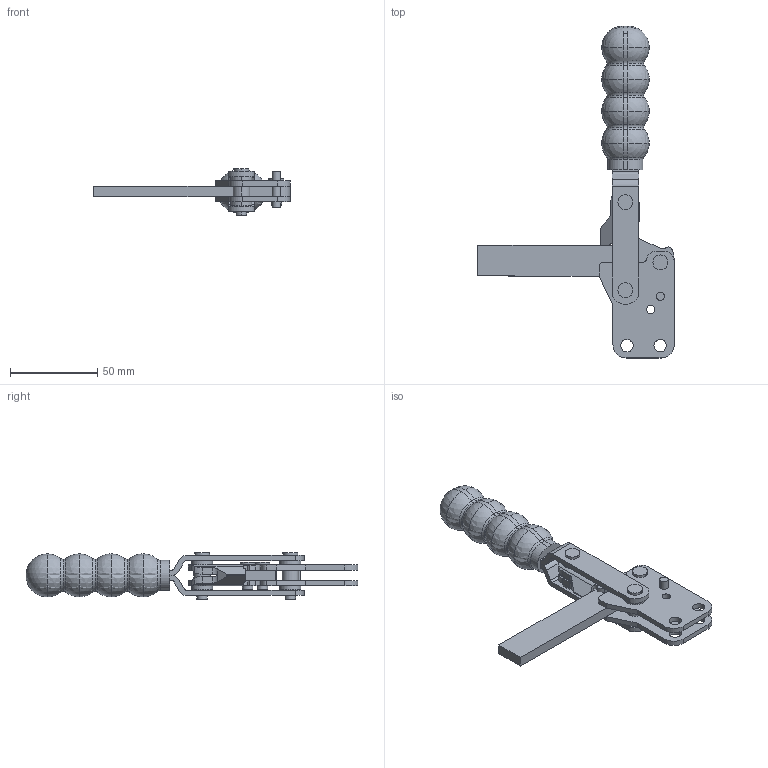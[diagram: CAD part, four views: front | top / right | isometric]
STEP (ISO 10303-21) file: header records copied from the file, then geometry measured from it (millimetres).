
FILE_DESCRIPTION( ( '' ), '1' );
FILE_NAME( '//partserver002.servicenet/client_exchange/iodir/jobs/output/wkb5782539_no2/STEP/v250_1a_2_14a.stp', '2006-11-29T10:30:40', ( '' ), ( '' ), ' ', ' ', ' ' );
FILE_SCHEMA( ( 'automotive_design' ) );
Length unit declared in the file: millimetre
Products named in the file (5): 1; 2; 3; 4; 5
Bounding box: 112.52 x 189.97 x 26.7 mm (x, y, z)
Volume: 73122.3 mm3; surface area: 39744.6 mm2
Topology: 5 solids, 5 shells, 254 faces, 671 edges, 414 vertices
Faces by surface type: cylinder 142, plane 82, sphere 16, torus 14
Entity records: 15410 total; most frequent: CARTESIAN_POINT 1550, DIRECTION 1477, STYLED_ITEM 1312, PRESENTATION_STYLE_ASSIGNMENT 1312, COLOUR_RGB 1312, ORIENTED_EDGE 1278, EDGE_CURVE 639, CURVE_STYLE 639
